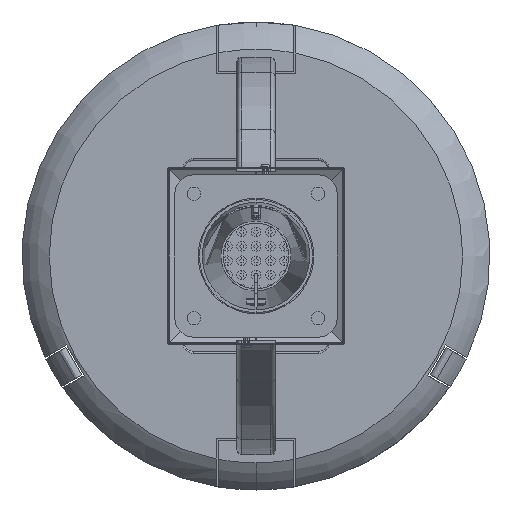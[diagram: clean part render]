
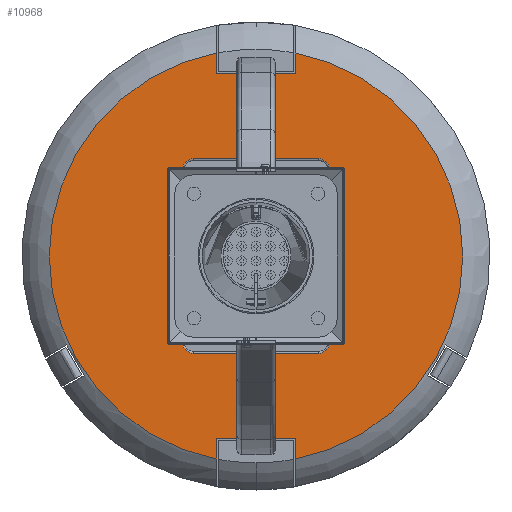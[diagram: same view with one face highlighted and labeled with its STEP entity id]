
A CAD part, front view. The second image highlights one B-rep face of the part: STEP entity #10968.
In plain terms, the highlighted planar face has unit normal (0, -1, 0).
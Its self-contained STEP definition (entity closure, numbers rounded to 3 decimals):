
#458 = CARTESIAN_POINT ( 'NONE',  ( -65., -25.037, -90. ) ) ;
#996 = EDGE_CURVE ( 'NONE', #10946, #15350, #27656, .T. ) ;
#1009 = LINE ( 'NONE', #11131, #26080 ) ;
#1109 = LINE ( 'NONE', #28321, #14247 ) ;
#1187 = EDGE_CURVE ( 'NONE', #2540, #5479, #20824, .T. ) ;
#1900 = ORIENTED_EDGE ( 'NONE', *, *, #1187, .T. ) ;
#2177 = VECTOR ( 'NONE', #25136, 1000. ) ;
#2387 = CARTESIAN_POINT ( 'NONE',  ( 77., -25.037, -90. ) ) ;
#2540 = VERTEX_POINT ( 'NONE', #9578 ) ;
#2654 = ORIENTED_EDGE ( 'NONE', *, *, #996, .T. ) ;
#2655 = ORIENTED_EDGE ( 'NONE', *, *, #24405, .T. ) ;
#2798 = DIRECTION ( 'NONE',  ( 0., 0., 1. ) ) ;
#2902 = DIRECTION ( 'NONE',  ( 0., 0., 1. ) ) ;
#2983 = LINE ( 'NONE', #13012, #19954 ) ;
#3331 = VERTEX_POINT ( 'NONE', #25763 ) ;
#3799 = CARTESIAN_POINT ( 'NONE',  ( 41., -25.037, -190.713 ) ) ;
#4332 = EDGE_LOOP ( 'NONE', ( #8900, #19536, #23980, #16623, #32092, #1900, #27737, #15918 ) ) ;
#4721 = EDGE_CURVE ( 'NONE', #24390, #8786, #23146, .T. ) ;
#4764 = EDGE_CURVE ( 'NONE', #15350, #17577, #2983, .T. ) ;
#5041 = CARTESIAN_POINT ( 'NONE',  ( 0., -25.037, 0. ) ) ;
#5157 = AXIS2_PLACEMENT_3D ( 'NONE', #26227, #8685, #14126 ) ;
#5217 = FACE_BOUND ( 'NONE', #4332, .T. ) ;
#5354 = ORIENTED_EDGE ( 'NONE', *, *, #30573, .F. ) ;
#5479 = VERTEX_POINT ( 'NONE', #25963 ) ;
#5526 = VERTEX_POINT ( 'NONE', #9073 ) ;
#5529 = DIRECTION ( 'NONE',  ( 0., 0., -1. ) ) ;
#5861 = DIRECTION ( 'NONE',  ( 0., 0., -1. ) ) ;
#6214 = LINE ( 'NONE', #18818, #12653 ) ;
#6568 = EDGE_CURVE ( 'NONE', #8786, #3331, #21169, .T. ) ;
#6985 = CARTESIAN_POINT ( 'NONE',  ( -65., -25.037, -102. ) ) ;
#7740 = VERTEX_POINT ( 'NONE', #26648 ) ;
#7953 = EDGE_CURVE ( 'NONE', #5526, #31747, #15326, .T. ) ;
#8685 = DIRECTION ( 'NONE',  ( 0., 1., 0. ) ) ;
#8786 = VERTEX_POINT ( 'NONE', #13694 ) ;
#8824 = EDGE_CURVE ( 'NONE', #30692, #7740, #14997, .T. ) ;
#8900 = ORIENTED_EDGE ( 'NONE', *, *, #17168, .T. ) ;
#9046 = CARTESIAN_POINT ( 'NONE',  ( 0., -25.037, 0. ) ) ;
#9073 = CARTESIAN_POINT ( 'NONE',  ( -41., -25.037, 190.713 ) ) ;
#9578 = CARTESIAN_POINT ( 'NONE',  ( 65., -25.037, 102. ) ) ;
#9638 = AXIS2_PLACEMENT_3D ( 'NONE', #30604, #15355, #5529 ) ;
#10147 = CARTESIAN_POINT ( 'NONE',  ( -65., -25.037, 90. ) ) ;
#10436 = DIRECTION ( 'NONE',  ( 0., 1., 0. ) ) ;
#10946 = VERTEX_POINT ( 'NONE', #17492 ) ;
#10968 = ADVANCED_FACE ( 'NONE', ( #5217, #12754 ), #32284, .F. ) ;
#11131 = CARTESIAN_POINT ( 'NONE',  ( 41., -25.037, 241.713 ) ) ;
#11279 = VECTOR ( 'NONE', #5861, 1000. ) ;
#11655 = CARTESIAN_POINT ( 'NONE',  ( 40., -25.037, -190.713 ) ) ;
#12653 = VECTOR ( 'NONE', #15859, 1000. ) ;
#12754 = FACE_OUTER_BOUND ( 'NONE', #26994, .T. ) ;
#13012 = CARTESIAN_POINT ( 'NONE',  ( -41., -25.037, 0. ) ) ;
#13013 = EDGE_CURVE ( 'NONE', #22798, #14413, #29748, .T. ) ;
#13191 = EDGE_CURVE ( 'NONE', #31747, #3331, #1009, .T. ) ;
#13229 = ORIENTED_EDGE ( 'NONE', *, *, #6568, .T. ) ;
#13252 = CARTESIAN_POINT ( 'NONE',  ( 77., -25.037, 0. ) ) ;
#13504 = AXIS2_PLACEMENT_3D ( 'NONE', #5041, #32118, #2902 ) ;
#13694 = CARTESIAN_POINT ( 'NONE',  ( 41., -25.037, -212.579 ) ) ;
#14126 = DIRECTION ( 'NONE',  ( 0., 0., 1. ) ) ;
#14247 = VECTOR ( 'NONE', #28656, 1000. ) ;
#14413 = VERTEX_POINT ( 'NONE', #18795 ) ;
#14670 = VERTEX_POINT ( 'NONE', #6985 ) ;
#14997 = CIRCLE ( 'NONE', #22327, 12. ) ;
#15326 = LINE ( 'NONE', #25324, #22211 ) ;
#15350 = VERTEX_POINT ( 'NONE', #21760 ) ;
#15355 = DIRECTION ( 'NONE',  ( 0., -1., 0. ) ) ;
#15498 = CARTESIAN_POINT ( 'NONE',  ( 65., -25.037, -90. ) ) ;
#15539 = VECTOR ( 'NONE', #26886, 1000. ) ;
#15611 = AXIS2_PLACEMENT_3D ( 'NONE', #10147, #17885, #2798 ) ;
#15859 = DIRECTION ( 'NONE',  ( 0., 0., 1. ) ) ;
#15863 = CARTESIAN_POINT ( 'NONE',  ( -77., -25.037, -90. ) ) ;
#15918 = ORIENTED_EDGE ( 'NONE', *, *, #8824, .T. ) ;
#16116 = AXIS2_PLACEMENT_3D ( 'NONE', #9046, #19051, #29081 ) ;
#16147 = DIRECTION ( 'NONE',  ( 0., 0., 1. ) ) ;
#16148 = EDGE_CURVE ( 'NONE', #25150, #22798, #6214, .T. ) ;
#16190 = CARTESIAN_POINT ( 'NONE',  ( -41., -25.037, 0. ) ) ;
#16623 = ORIENTED_EDGE ( 'NONE', *, *, #13013, .T. ) ;
#16696 = DIRECTION ( 'NONE',  ( -1., 0., 0. ) ) ;
#17168 = EDGE_CURVE ( 'NONE', #7740, #14670, #21745, .T. ) ;
#17492 = CARTESIAN_POINT ( 'NONE',  ( -41., -25.037, 212.579 ) ) ;
#17577 = VERTEX_POINT ( 'NONE', #24980 ) ;
#17885 = DIRECTION ( 'NONE',  ( 0., 1., 0. ) ) ;
#18644 = LINE ( 'NONE', #16190, #22863 ) ;
#18795 = CARTESIAN_POINT ( 'NONE',  ( -65., -25.037, 102. ) ) ;
#18818 = CARTESIAN_POINT ( 'NONE',  ( -77., -25.037, 0. ) ) ;
#19051 = DIRECTION ( 'NONE',  ( 0., -1., 0. ) ) ;
#19536 = ORIENTED_EDGE ( 'NONE', *, *, #29837, .T. ) ;
#19954 = VECTOR ( 'NONE', #22994, 1000. ) ;
#20193 = CARTESIAN_POINT ( 'NONE',  ( 41., -25.037, -241.713 ) ) ;
#20435 = DIRECTION ( 'NONE',  ( 0., 0., 1. ) ) ;
#20716 = DIRECTION ( 'NONE',  ( 0., 1., 0. ) ) ;
#20824 = CIRCLE ( 'NONE', #5157, 12. ) ;
#21169 = CIRCLE ( 'NONE', #9638, 216.497 ) ;
#21319 = DIRECTION ( 'NONE',  ( 0., 0., 1. ) ) ;
#21504 = LINE ( 'NONE', #11655, #15539 ) ;
#21535 = EDGE_CURVE ( 'NONE', #14413, #2540, #1109, .T. ) ;
#21745 = LINE ( 'NONE', #24392, #32110 ) ;
#21760 = CARTESIAN_POINT ( 'NONE',  ( -41., -25.037, -212.579 ) ) ;
#21762 = AXIS2_PLACEMENT_3D ( 'NONE', #458, #10436, #20435 ) ;
#21896 = CARTESIAN_POINT ( 'NONE',  ( 41., -25.037, 190.713 ) ) ;
#22211 = VECTOR ( 'NONE', #30415, 1000. ) ;
#22271 = CIRCLE ( 'NONE', #21762, 12. ) ;
#22327 = AXIS2_PLACEMENT_3D ( 'NONE', #15498, #20716, #16147 ) ;
#22798 = VERTEX_POINT ( 'NONE', #23658 ) ;
#22863 = VECTOR ( 'NONE', #26170, 1000. ) ;
#22994 = DIRECTION ( 'NONE',  ( 0., 0., 1. ) ) ;
#23146 = LINE ( 'NONE', #20193, #2177 ) ;
#23201 = ORIENTED_EDGE ( 'NONE', *, *, #13191, .F. ) ;
#23658 = CARTESIAN_POINT ( 'NONE',  ( -77., -25.037, 90. ) ) ;
#23705 = ORIENTED_EDGE ( 'NONE', *, *, #4721, .T. ) ;
#23980 = ORIENTED_EDGE ( 'NONE', *, *, #16148, .T. ) ;
#24303 = ORIENTED_EDGE ( 'NONE', *, *, #7953, .F. ) ;
#24390 = VERTEX_POINT ( 'NONE', #3799 ) ;
#24392 = CARTESIAN_POINT ( 'NONE',  ( 0., -25.037, -102. ) ) ;
#24405 = EDGE_CURVE ( 'NONE', #17577, #24390, #21504, .T. ) ;
#24980 = CARTESIAN_POINT ( 'NONE',  ( -41., -25.037, -190.713 ) ) ;
#25136 = DIRECTION ( 'NONE',  ( 0., 0., -1. ) ) ;
#25150 = VERTEX_POINT ( 'NONE', #15863 ) ;
#25324 = CARTESIAN_POINT ( 'NONE',  ( 40., -25.037, 190.713 ) ) ;
#25763 = CARTESIAN_POINT ( 'NONE',  ( 41., -25.037, 212.579 ) ) ;
#25963 = CARTESIAN_POINT ( 'NONE',  ( 77., -25.037, 90. ) ) ;
#26080 = VECTOR ( 'NONE', #21319, 1000. ) ;
#26170 = DIRECTION ( 'NONE',  ( 0., 0., -1. ) ) ;
#26227 = CARTESIAN_POINT ( 'NONE',  ( 65., -25.037, 90. ) ) ;
#26648 = CARTESIAN_POINT ( 'NONE',  ( 65., -25.037, -102. ) ) ;
#26886 = DIRECTION ( 'NONE',  ( 1., 0., 0. ) ) ;
#26994 = EDGE_LOOP ( 'NONE', ( #5354, #2654, #29722, #2655, #23705, #13229, #23201, #24303 ) ) ;
#27656 = CIRCLE ( 'NONE', #16116, 216.497 ) ;
#27737 = ORIENTED_EDGE ( 'NONE', *, *, #29804, .T. ) ;
#27835 = LINE ( 'NONE', #13252, #11279 ) ;
#28321 = CARTESIAN_POINT ( 'NONE',  ( 0., -25.037, 102. ) ) ;
#28656 = DIRECTION ( 'NONE',  ( 1., 0., 0. ) ) ;
#29081 = DIRECTION ( 'NONE',  ( 0., 0., -1. ) ) ;
#29722 = ORIENTED_EDGE ( 'NONE', *, *, #4764, .T. ) ;
#29748 = CIRCLE ( 'NONE', #15611, 12. ) ;
#29804 = EDGE_CURVE ( 'NONE', #5479, #30692, #27835, .T. ) ;
#29837 = EDGE_CURVE ( 'NONE', #14670, #25150, #22271, .T. ) ;
#30415 = DIRECTION ( 'NONE',  ( 1., 0., 0. ) ) ;
#30573 = EDGE_CURVE ( 'NONE', #10946, #5526, #18644, .T. ) ;
#30604 = CARTESIAN_POINT ( 'NONE',  ( 0., -25.037, 0. ) ) ;
#30692 = VERTEX_POINT ( 'NONE', #2387 ) ;
#31747 = VERTEX_POINT ( 'NONE', #21896 ) ;
#32092 = ORIENTED_EDGE ( 'NONE', *, *, #21535, .T. ) ;
#32110 = VECTOR ( 'NONE', #16696, 1000. ) ;
#32118 = DIRECTION ( 'NONE',  ( 0., 1., 0. ) ) ;
#32284 = PLANE ( 'NONE',  #13504 ) ;
